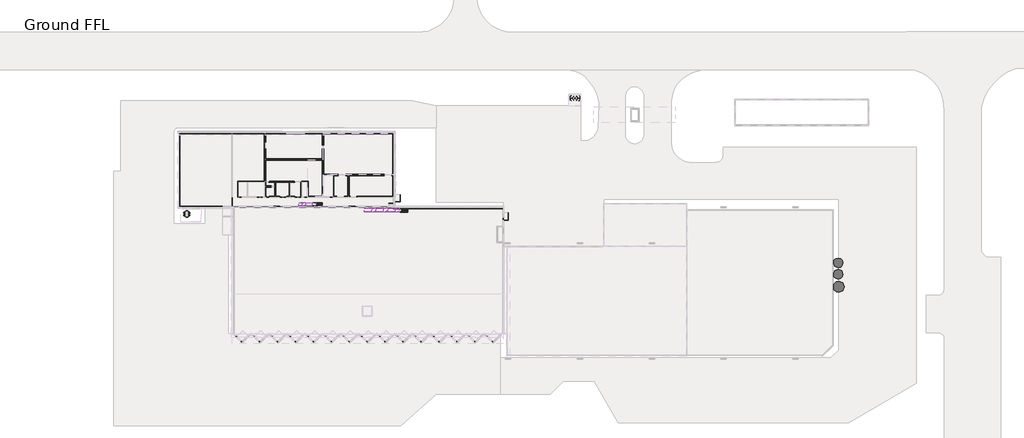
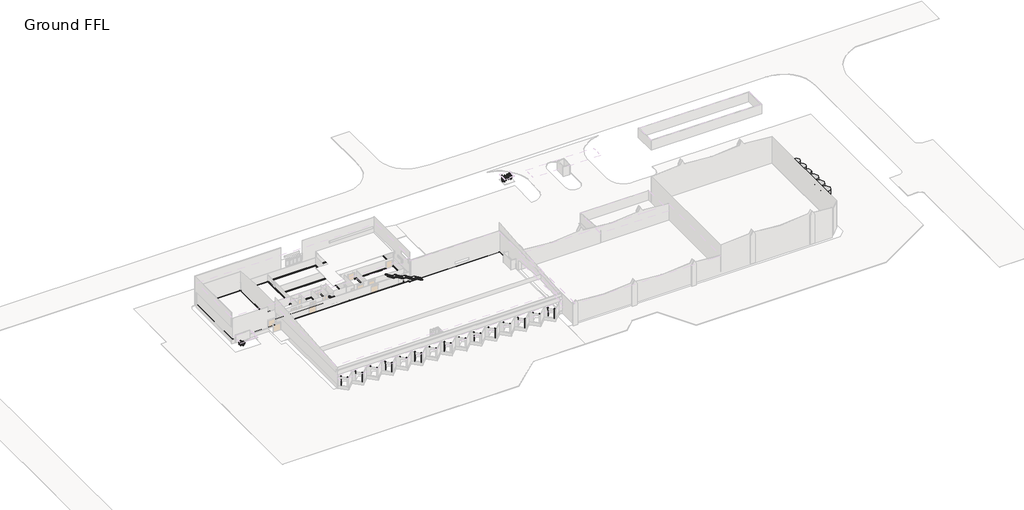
# One storey, part 7 of 7: 24 members, 16 proxies, 7 furniture elements, 7 stair flights, 5 slabs, 2 railings.
"""IFC4 building model written with IfcOpenShell, lengths in millimetres."""

from ifc_helpers import new_model, si_unit, frame, origin, place, context, project, spatial, polyline, outline, extrude, faceted_brep, transform, mapped, element, save
from components import generic_models_54642b07, generic_models_47eebe91, generic_models_15_generic_models_7_14492d66, generic_models_17_generic_models_1_3472ba46, generic_models_32_generic_models_32_7081ad10, generic_models_34_generic_models_32_d1835341, generic_models_38_generic_models_32_1923ef68, generic_models_40_generic_models_32_09cfcb6a, generic_models_61_generic_models_32_4aa8cace, generic_models_62_generic_models_32_8d04a695, generic_models_63_generic_models_32_eed390c8, generic_models_64_generic_models_32_c3ba978d, generic_models_65_generic_models_32_f5ca0920, generic_models_66_generic_models_32_00b28616, generic_models_67_generic_models_32_a422b838, generic_models_7_generic_models_7_7c2eb50a, desk_900x1800_desk_900x1800_b530369f, m_chair_desk_desk_chair_ccc35c8f, m_chair_desk_desk_chair_1723cfae, non_monolithic_landing_66f48692, non_monolithic_landing_e078cbeb, non_monolithic_landing_d349593f, non_monolithic_landing_6ace3499, non_monolithic_landing_e98cef7c, stair_flight_50mm_tread_13mm_riser_238aa83a, stair_flight_50mm_tread_13mm_riser_6543d562, stair_flight_50mm_tread_13mm_riser_bf7483d6, stair_flight_50mm_tread_13mm_riser_9f3b3ad1, stair_flight_50mm_tread_13mm_riser_e022b7d3, stair_flight_50mm_tread_13mm_riser_e6a1415e, stair_flight_50mm_tread_13mm_riser_ea8bbd4d

model = new_model("IFC4")

# Units and contexts
model_context = context("Model", 3, world=origin())
ifc_project = project(units=[si_unit("LENGTHUNIT", "METRE", prefix="MILLI")], contexts=[model_context])

# Site, building, storey
site = spatial("IfcSite", under=ifc_project)
building = spatial("IfcBuilding", under=site)
storey = spatial("IfcBuildingStorey", under=building, Name="Ground FFL", Elevation=44170.0)

# Proxies
placement = place(None, origin())
generic_models_shape = generic_models_54642b07(model_context)
element("IfcBuildingElementProxy", 1, Name="turnstile : turnstile", ObjectType="turnstile : turnstile", at=placement, inside=storey, context=model_context, shape_type="MappedRepresentation", body=[
    mapped(generic_models_shape, transform((-19833.8846753, 48120.4373725, 44170.0), x_axis=(1.0, 0.0, 0.0), y_axis=(0.0, 1.0, 0.0), z_axis=(0.0, 0.0, 1.0))),
])
generic_models_2_shape = generic_models_47eebe91(model_context)
element("IfcBuildingElementProxy", 2, Name="turnstile : turnstile", ObjectType="turnstile : turnstile", at=placement, inside=storey, context=model_context, shape_type="MappedRepresentation", body=[
    mapped(generic_models_2_shape, transform((-21709.5284214, 48120.4373725, 44170.0), x_axis=(-1.0, 0.0, 0.0), y_axis=(0.0, -1.0, 0.0), z_axis=(0.0, 0.0, 1.0))),
])
generic_models_15_generic_models_7_shape = generic_models_15_generic_models_7_14492d66(model_context)
element("IfcBuildingElementProxy", 3, Name="Generic Models 15 : Generic Models 7", ObjectType="Generic Models 15 : Generic Models 7", at=placement, inside=storey, context=model_context, shape_type="MappedRepresentation", body=[
    mapped(generic_models_15_generic_models_7_shape, transform((101.2251552, -101.2251552, 0.0), x_axis=(1.0, 0.0, 0.0), y_axis=(0.0, 1.0, 0.0), z_axis=(0.0, 0.0, 1.0))),
])
generic_models_17_generic_models_1_shape = generic_models_17_generic_models_1_3472ba46(model_context)
element("IfcBuildingElementProxy", 4, Name="Generic Models 17 : Generic Models 1", ObjectType="Generic Models 17 : Generic Models 1", at=placement, inside=storey, context=model_context, shape_type="MappedRepresentation", body=[
    mapped(generic_models_17_generic_models_1_shape, transform((0.0, 0.0, 0.0), x_axis=(1.0, 0.0, 0.0), y_axis=(0.0, 1.0, 0.0), z_axis=(0.0, 0.0, 1.0))),
])
generic_models_32_generic_models_32_shape = generic_models_32_generic_models_32_7081ad10(model_context)
element("IfcBuildingElementProxy", 5, Name="Generic Models 32 : Generic Models 32", ObjectType="Generic Models 32 : Generic Models 32", at=placement, inside=storey, context=model_context, shape_type="MappedRepresentation", body=[
    mapped(generic_models_32_generic_models_32_shape, transform((0.0, 0.0, 0.0), x_axis=(1.0, 0.0, 0.0), y_axis=(0.0, 1.0, 0.0), z_axis=(0.0, 0.0, 1.0))),
])
generic_models_34_generic_models_32_shape = generic_models_34_generic_models_32_d1835341(model_context)
element("IfcBuildingElementProxy", 6, Name="Generic Models 34 : Generic Models 32", ObjectType="Generic Models 34 : Generic Models 32", at=placement, inside=storey, context=model_context, shape_type="MappedRepresentation", body=[
    mapped(generic_models_34_generic_models_32_shape, transform((0.0, 0.0, 0.0), x_axis=(1.0, 0.0, 0.0), y_axis=(0.0, 1.0, 0.0), z_axis=(0.0, 0.0, 1.0))),
])
generic_models_38_generic_models_32_shape = generic_models_38_generic_models_32_1923ef68(model_context)
element("IfcBuildingElementProxy", 7, Name="Generic Models 38 : Generic Models 32", ObjectType="Generic Models 38 : Generic Models 32", at=placement, inside=storey, context=model_context, shape_type="MappedRepresentation", body=[
    mapped(generic_models_38_generic_models_32_shape, transform((0.0, 0.0, 0.0), x_axis=(1.0, 0.0, 0.0), y_axis=(0.0, 1.0, 0.0), z_axis=(0.0, 0.0, 1.0))),
])
generic_models_40_generic_models_32_shape = generic_models_40_generic_models_32_09cfcb6a(model_context)
element("IfcBuildingElementProxy", 8, Name="Generic Models 40 : Generic Models 32", ObjectType="Generic Models 40 : Generic Models 32", at=placement, inside=storey, context=model_context, shape_type="MappedRepresentation", body=[
    mapped(generic_models_40_generic_models_32_shape, transform((0.0, 0.0, 0.0), x_axis=(1.0, 0.0, 0.0), y_axis=(0.0, 1.0, 0.0), z_axis=(0.0, 0.0, 1.0))),
])
generic_models_61_generic_models_32_shape = generic_models_61_generic_models_32_4aa8cace(model_context)
element("IfcBuildingElementProxy", 9, Name="Generic Models 61 : Generic Models 32", ObjectType="Generic Models 61 : Generic Models 32", at=placement, inside=storey, context=model_context, shape_type="MappedRepresentation", body=[
    mapped(generic_models_61_generic_models_32_shape, transform((0.0, 0.0, 0.0), x_axis=(1.0, 0.0, 0.0), y_axis=(0.0, 1.0, 0.0), z_axis=(0.0, 0.0, 1.0))),
])
generic_models_62_generic_models_32_shape = generic_models_62_generic_models_32_8d04a695(model_context)
element("IfcBuildingElementProxy", 10, Name="Generic Models 62 : Generic Models 32", ObjectType="Generic Models 62 : Generic Models 32", at=placement, inside=storey, context=model_context, shape_type="MappedRepresentation", body=[
    mapped(generic_models_62_generic_models_32_shape, transform((0.0, 0.0, 0.0), x_axis=(1.0, 0.0, 0.0), y_axis=(0.0, 1.0, 0.0), z_axis=(0.0, 0.0, 1.0))),
])
generic_models_63_generic_models_32_shape = generic_models_63_generic_models_32_eed390c8(model_context)
element("IfcBuildingElementProxy", 11, Name="Generic Models 63 : Generic Models 32", ObjectType="Generic Models 63 : Generic Models 32", at=placement, inside=storey, context=model_context, shape_type="MappedRepresentation", body=[
    mapped(generic_models_63_generic_models_32_shape, transform((0.0, 0.0, 0.0), x_axis=(1.0, 0.0, 0.0), y_axis=(0.0, 1.0, 0.0), z_axis=(0.0, 0.0, 1.0))),
])
generic_models_64_generic_models_32_shape = generic_models_64_generic_models_32_c3ba978d(model_context)
element("IfcBuildingElementProxy", 12, Name="Generic Models 64 : Generic Models 32", ObjectType="Generic Models 64 : Generic Models 32", at=placement, inside=storey, context=model_context, shape_type="MappedRepresentation", body=[
    mapped(generic_models_64_generic_models_32_shape, transform((0.0, 0.0, 0.0), x_axis=(1.0, 0.0, 0.0), y_axis=(0.0, 1.0, 0.0), z_axis=(0.0, 0.0, 1.0))),
])
generic_models_65_generic_models_32_shape = generic_models_65_generic_models_32_f5ca0920(model_context)
element("IfcBuildingElementProxy", 13, Name="Generic Models 65 : Generic Models 32", ObjectType="Generic Models 65 : Generic Models 32", at=placement, inside=storey, context=model_context, shape_type="MappedRepresentation", body=[
    mapped(generic_models_65_generic_models_32_shape, transform((0.0, 0.0, 0.0), x_axis=(1.0, 0.0, 0.0), y_axis=(0.0, 1.0, 0.0), z_axis=(0.0, 0.0, 1.0))),
])
generic_models_66_generic_models_32_shape = generic_models_66_generic_models_32_00b28616(model_context)
element("IfcBuildingElementProxy", 14, Name="Generic Models 66 : Generic Models 32", ObjectType="Generic Models 66 : Generic Models 32", at=placement, inside=storey, context=model_context, shape_type="MappedRepresentation", body=[
    mapped(generic_models_66_generic_models_32_shape, transform((0.0, 0.0, 0.0), x_axis=(1.0, 0.0, 0.0), y_axis=(0.0, 1.0, 0.0), z_axis=(0.0, 0.0, 1.0))),
])
generic_models_67_generic_models_32_shape = generic_models_67_generic_models_32_a422b838(model_context)
element("IfcBuildingElementProxy", 15, Name="Generic Models 67 : Generic Models 32", ObjectType="Generic Models 67 : Generic Models 32", at=placement, inside=storey, context=model_context, shape_type="MappedRepresentation", body=[
    mapped(generic_models_67_generic_models_32_shape, transform((0.0, 0.0, 0.0), x_axis=(1.0, 0.0, 0.0), y_axis=(0.0, 1.0, 0.0), z_axis=(0.0, 0.0, 1.0))),
])
generic_models_7_generic_models_7_shape = generic_models_7_generic_models_7_7c2eb50a(model_context)
element("IfcBuildingElementProxy", 16, Name="Generic Models 7 : Generic Models 7", ObjectType="Generic Models 7 : Generic Models 7", at=placement, inside=storey, context=model_context, shape_type="MappedRepresentation", body=[
    mapped(generic_models_7_generic_models_7_shape, transform((-245.5190839, 245.5190839, 0.0), x_axis=(1.0, 0.0, 0.0), y_axis=(0.0, 1.0, 0.0), z_axis=(0.0, 0.0, 1.0))),
])

# Furniture
desk_900x1800_desk_900x1800_shape = desk_900x1800_desk_900x1800_b530369f(model_context)
element("IfcFurniture", 17, ObjectType="Desk 900x1800 : Desk 900x1800", at=placement, inside=storey, context=model_context, shape_type="MappedRepresentation", body=[
    mapped(desk_900x1800_desk_900x1800_shape, transform((-149927.7323436, 9461.0425754, 42810.0), x_axis=(0.0, 1.0, 0.0), y_axis=(-1.0, 0.0, 0.0), z_axis=(0.0, 0.0, 1.0))),
])
m_chair_desk_desk_chair_shape = m_chair_desk_desk_chair_ccc35c8f(model_context)
element("IfcFurniture", 18, ObjectType="M_Chair-Desk : Desk Chair", at=placement, inside=storey, context=model_context, shape_type="MappedRepresentation", body=[
    mapped(m_chair_desk_desk_chair_shape, transform((-151278.93237, 9061.0425754, 42810.0), x_axis=(0.0, -1.0000000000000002, 0.0), y_axis=(1.0000000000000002, 0.0, 0.0), z_axis=(0.0, 0.0, 1.0))),
])
element("IfcFurniture", 19, ObjectType="M_Chair-Desk : Desk Chair", at=placement, inside=storey, context=model_context, shape_type="MappedRepresentation", body=[
    mapped(m_chair_desk_desk_chair_shape, transform((-151278.93237, 9841.0425754, 42810.0), x_axis=(0.0, -1.0000000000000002, 0.0), y_axis=(1.0000000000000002, 0.0, 0.0), z_axis=(0.0, 0.0, 1.0))),
])
element("IfcFurniture", 20, ObjectType="M_Chair-Desk : Desk Chair", at=placement, inside=storey, context=model_context, shape_type="MappedRepresentation", body=[
    mapped(m_chair_desk_desk_chair_shape, transform((-150371.0114687, 8461.0425754, 42810.0), x_axis=(1.0, 0.0, 0.0), y_axis=(0.0, 1.0, 0.0), z_axis=(0.0, 0.0, 1.0))),
])
element("IfcFurniture", 21, ObjectType="M_Chair-Desk : Desk Chair", at=placement, inside=storey, context=model_context, shape_type="MappedRepresentation", body=[
    mapped(m_chair_desk_desk_chair_shape, transform((-150371.0114687, 10485.787017, 42810.0), x_axis=(-1.0, 0.0, 0.0), y_axis=(0.0, -1.0, 0.0), z_axis=(0.0, 0.0, 1.0))),
])
m_chair_desk_desk_chair_2_shape = m_chair_desk_desk_chair_1723cfae(model_context)
element("IfcFurniture", 22, ObjectType="M_Chair-Desk : Desk Chair", at=placement, inside=storey, context=model_context, shape_type="MappedRepresentation", body=[
    mapped(m_chair_desk_desk_chair_2_shape, transform((-149476.5323172, 9061.0425754, 42810.0), x_axis=(0.0, -1.0000000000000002, 0.0), y_axis=(1.0000000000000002, 0.0, 0.0), z_axis=(0.0, 0.0, 1.0))),
])
element("IfcFurniture", 23, ObjectType="M_Chair-Desk : Desk Chair", at=placement, inside=storey, context=model_context, shape_type="MappedRepresentation", body=[
    mapped(m_chair_desk_desk_chair_2_shape, transform((-149476.5323172, 9841.0425754, 42810.0), x_axis=(0.0, -1.0000000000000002, 0.0), y_axis=(1.0000000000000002, 0.0, 0.0), z_axis=(0.0, 0.0, 1.0))),
])

# Members
element("IfcMember", 24, ObjectType="Stringer - 50mm Width", at=placement, inside=storey, context=model_context, shape_type="SweptSolid", body=[
    extrude(outline(polyline([(49004.6415784, -88401.8011641), (49404.6415784, -88291.4340732), (51093.5957706, -91119.0398328), (50627.6725208, -91119.0398328), (49004.6415784, -88401.8011641)])), frame((0.0, 10089.2777512, 0.0), z_axis=(0.0, 1.0, 0.0), x_axis=(0.0, 0.0, 1.0)), (0.0, 0.0, 1.0), 50.0),
])
element("IfcMember", 25, ObjectType="Stringer - 50mm Width", at=placement, inside=storey, context=model_context, shape_type="SweptSolid", body=[
    extrude(outline(polyline([(49004.6415784, -88401.8011641), (49404.6415784, -88291.4340732), (51093.5957706, -91119.0398328), (50627.6725208, -91119.0398328), (49004.6415784, -88401.8011641)])), frame((0.0, 11339.2777512, 0.0), z_axis=(0.0, 1.0, 0.0), x_axis=(0.0, 0.0, 1.0)), (0.0, 0.0, 1.0), 50.0),
])
element("IfcMember", 26, ObjectType="Stringer - 50mm Width", at=placement, inside=storey, context=model_context, shape_type="SweptSolid", body=[
    extrude(outline(polyline([(47332.1765531, -84601.8011641), (47732.1765531, -84491.4340732), (49404.6415784, -87291.4340732), (49004.6415784, -87401.8011641), (47332.1765531, -84601.8011641)])), frame((0.0, 10089.2777512, 0.0), z_axis=(0.0, 1.0, 0.0), x_axis=(0.0, 0.0, 1.0)), (0.0, 0.0, 1.0), 50.0),
])
element("IfcMember", 27, ObjectType="Stringer - 50mm Width", at=placement, inside=storey, context=model_context, shape_type="SweptSolid", body=[
    extrude(outline(polyline([(47332.1765531, -84601.8011641), (47732.1765531, -84491.4340732), (49404.6415784, -87291.4340732), (49004.6415784, -87401.8011641), (47332.1765531, -84601.8011641)])), frame((0.0, 11339.2777512, 0.0), z_axis=(0.0, 1.0, 0.0), x_axis=(0.0, 0.0, 1.0)), (0.0, 0.0, 1.0), 50.0),
])
element("IfcMember", 28, ObjectType="Stringer - 50mm Width", at=placement, inside=storey, context=model_context, shape_type="SweptSolid", body=[
    extrude(outline(polyline([(49404.6415784, -88291.4340732), (49004.6415784, -88401.8011641), (49004.6415784, -87401.8011641), (49404.6415784, -87291.4340732), (49404.6415784, -88291.4340732)])), frame((0.0, 10089.2777512, 0.0), z_axis=(0.0, 1.0, 0.0), x_axis=(0.0, 0.0, 1.0)), (0.0, 0.0, 1.0), 50.0),
])
element("IfcMember", 29, ObjectType="Stringer - 50mm Width", at=placement, inside=storey, context=model_context, shape_type="SweptSolid", body=[
    extrude(outline(polyline([(49004.6415784, -87401.8011641), (49404.6415784, -87291.4340732), (49404.6415784, -88291.4340732), (49004.6415784, -88401.8011641), (49004.6415784, -87401.8011641)])), frame((0.0, 11339.2777512, 0.0), z_axis=(0.0, 1.0, 0.0), x_axis=(0.0, 0.0, 1.0)), (0.0, 0.0, 1.0), 50.0),
])
element("IfcMember", 30, ObjectType="Stringer - 50mm Width", at=placement, inside=storey, context=model_context, shape_type="SweptSolid", body=[
    extrude(outline(polyline([(45659.7115278, -80679.902129), (46059.7115278, -80569.5350381), (47732.1765531, -83369.5350381), (47332.1765531, -83479.902129), (45659.7115278, -80679.902129)])), frame((0.0, 10089.2777512, 0.0), z_axis=(0.0, 1.0, 0.0), x_axis=(0.0, 0.0, 1.0)), (0.0, 0.0, 1.0), 50.0),
])
element("IfcMember", 31, ObjectType="Stringer - 50mm Width", at=placement, inside=storey, context=model_context, shape_type="SweptSolid", body=[
    extrude(outline(polyline([(45659.7115278, -80679.902129), (46059.7115278, -80569.5350381), (47732.1765531, -83369.5350381), (47332.1765531, -83479.902129), (45659.7115278, -80679.902129)])), frame((0.0, 11339.2777512, 0.0), z_axis=(0.0, 1.0, 0.0), x_axis=(0.0, 0.0, 1.0)), (0.0, 0.0, 1.0), 50.0),
])
element("IfcMember", 32, ObjectType="Stringer - 50mm Width", at=placement, inside=storey, context=model_context, shape_type="SweptSolid", body=[
    extrude(outline(polyline([(47732.1765531, -84491.4340732), (47332.1765531, -84601.8011641), (47332.1765531, -83479.902129), (47732.1765531, -83369.5350381), (47732.1765531, -84491.4340732)])), frame((0.0, 10089.2777512, 0.0), z_axis=(0.0, 1.0, 0.0), x_axis=(0.0, 0.0, 1.0)), (0.0, 0.0, 1.0), 50.0),
])
element("IfcMember", 33, ObjectType="Stringer - 50mm Width", at=placement, inside=storey, context=model_context, shape_type="SweptSolid", body=[
    extrude(outline(polyline([(47332.1765531, -83479.902129), (47732.1765531, -83369.5350381), (47732.1765531, -84491.4340732), (47332.1765531, -84601.8011641), (47332.1765531, -83479.902129)])), frame((0.0, 11339.2777512, 0.0), z_axis=(0.0, 1.0, 0.0), x_axis=(0.0, 0.0, 1.0)), (0.0, 0.0, 1.0), 50.0),
])
element("IfcMember", 34, ObjectType="Stringer - 50mm Width", at=placement, inside=storey, context=model_context, shape_type="SweptSolid", body=[
    extrude(outline(polyline([(44170.0, -76697.1407976), (44403.7356694, -76697.1407976), (46059.7115278, -79469.5350381), (45659.7115278, -79579.902129), (44170.0, -77085.8635603), (44170.0, -76697.1407976)])), frame((0.0, 10089.2777512, 0.0), z_axis=(0.0, 1.0, 0.0), x_axis=(0.0, 0.0, 1.0)), (0.0, 0.0, 1.0), 50.0),
])
element("IfcMember", 35, ObjectType="Stringer - 50mm Width", at=placement, inside=storey, context=model_context, shape_type="SweptSolid", body=[
    extrude(outline(polyline([(44170.0, -76697.1407976), (44403.7356694, -76697.1407976), (46059.7115278, -79469.5350381), (45659.7115278, -79579.902129), (44170.0, -77085.8635603), (44170.0, -76697.1407976)])), frame((0.0, 11339.2777512, 0.0), z_axis=(0.0, 1.0, 0.0), x_axis=(0.0, 0.0, 1.0)), (0.0, 0.0, 1.0), 50.0),
])
element("IfcMember", 36, ObjectType="Stringer - 50mm Width", at=placement, inside=storey, context=model_context, shape_type="SweptSolid", body=[
    extrude(outline(polyline([(46059.7115278, -80569.5350381), (45659.7115278, -80679.902129), (45659.7115278, -79579.902129), (46059.7115278, -79469.5350381), (46059.7115278, -80569.5350381)])), frame((0.0, 10089.2777512, 0.0), z_axis=(0.0, 1.0, 0.0), x_axis=(0.0, 0.0, 1.0)), (0.0, 0.0, 1.0), 50.0),
])
element("IfcMember", 37, ObjectType="Stringer - 50mm Width", at=placement, inside=storey, context=model_context, shape_type="SweptSolid", body=[
    extrude(outline(polyline([(45659.7115278, -79579.902129), (46059.7115278, -79469.5350381), (46059.7115278, -80569.5350381), (45659.7115278, -80679.902129), (45659.7115278, -79579.902129)])), frame((0.0, 11339.2777512, 0.0), z_axis=(0.0, 1.0, 0.0), x_axis=(0.0, 0.0, 1.0)), (0.0, 0.0, 1.0), 50.0),
])
element("IfcMember", 38, ObjectType="Stringer - 50mm Width", at=placement, inside=storey, context=model_context, shape_type="SweptSolid", body=[
    extrude(outline(polyline([(44170.0, -105168.9945013), (44406.0780405, -105168.9945013), (45720.0, -107297.5480757), (45320.0, -107411.0623566), (44170.0, -105548.0623566), (44170.0, -105168.9945013)])), frame((0.0, 13172.4703498, 0.0), z_axis=(0.0, 1.0, 0.0), x_axis=(0.0, 0.0, 1.0)), (0.0, 0.0, 1.0), 50.0),
])
element("IfcMember", 39, ObjectType="Stringer - 50mm Width", at=placement, inside=storey, context=model_context, shape_type="SweptSolid", body=[
    extrude(outline(polyline([(44170.0, -105168.9945013), (44406.0780405, -105168.9945013), (45720.0, -107297.5480757), (45320.0, -107411.0623566), (44170.0, -105548.0623566), (44170.0, -105168.9945013)])), frame((0.0, 12122.4703498, 0.0), z_axis=(0.0, 1.0, 0.0), x_axis=(0.0, 0.0, 1.0)), (0.0, 0.0, 1.0), 50.0),
])
element("IfcMember", 40, ObjectType="Stringer - 50mm Width", at=placement, inside=storey, context=model_context, shape_type="SweptSolid", body=[
    extrude(outline(polyline([(45320.0, -108341.0078665), (45720.0, -108227.4935856), (47220.0, -110657.4935856), (46820.0, -110771.0078665), (45320.0, -108341.0078665)])), frame((0.0, 13172.4703498, 0.0), z_axis=(0.0, 1.0, 0.0), x_axis=(0.0, 0.0, 1.0)), (0.0, 0.0, 1.0), 50.0),
])
element("IfcMember", 41, ObjectType="Stringer - 50mm Width", at=placement, inside=storey, context=model_context, shape_type="SweptSolid", body=[
    extrude(outline(polyline([(45320.0, -108341.0078665), (45720.0, -108227.4935856), (47220.0, -110657.4935856), (46820.0, -110771.0078665), (45320.0, -108341.0078665)])), frame((0.0, 12122.4703498, 0.0), z_axis=(0.0, 1.0, 0.0), x_axis=(0.0, 0.0, 1.0)), (0.0, 0.0, 1.0), 50.0),
])
element("IfcMember", 42, ObjectType="Stringer - 50mm Width", at=placement, inside=storey, context=model_context, shape_type="SweptSolid", body=[
    extrude(outline(polyline([(45320.0, -107411.0623566), (45720.0, -107297.5480757), (45720.0, -108227.4935856), (45320.0, -108341.0078665), (45320.0, -107411.0623566)])), frame((0.0, 13172.4703498, 0.0), z_axis=(0.0, 1.0, 0.0), x_axis=(0.0, 0.0, 1.0)), (0.0, 0.0, 1.0), 50.0),
])
element("IfcMember", 43, ObjectType="Stringer - 50mm Width", at=placement, inside=storey, context=model_context, shape_type="SweptSolid", body=[
    extrude(outline(polyline([(45720.0, -108227.4935856), (45320.0, -108341.0078665), (45320.0, -107411.0623566), (45720.0, -107297.5480757), (45720.0, -108227.4935856)])), frame((0.0, 12122.4703498, 0.0), z_axis=(0.0, 1.0, 0.0), x_axis=(0.0, 0.0, 1.0)), (0.0, 0.0, 1.0), 50.0),
])
element("IfcMember", 44, ObjectType="Stringer - 50mm Width", at=placement, inside=storey, context=model_context, shape_type="SweptSolid", body=[
    extrude(outline(polyline([(46820.0, -111701.0078665), (47220.0, -111587.4935856), (48072.7447071, -112968.9400112), (47602.6741634, -112968.9400112), (46820.0, -111701.0078665)])), frame((0.0, 13172.4703498, 0.0), z_axis=(0.0, 1.0, 0.0), x_axis=(0.0, 0.0, 1.0)), (0.0, 0.0, 1.0), 50.0),
])
element("IfcMember", 45, ObjectType="Stringer - 50mm Width", at=placement, inside=storey, context=model_context, shape_type="SweptSolid", body=[
    extrude(outline(polyline([(46820.0, -111701.0078665), (47220.0, -111587.4935856), (48072.7447071, -112968.9400112), (47602.6741634, -112968.9400112), (46820.0, -111701.0078665)])), frame((0.0, 12122.4703498, 0.0), z_axis=(0.0, 1.0, 0.0), x_axis=(0.0, 0.0, 1.0)), (0.0, 0.0, 1.0), 50.0),
])
element("IfcMember", 46, ObjectType="Stringer - 50mm Width", at=placement, inside=storey, context=model_context, shape_type="SweptSolid", body=[
    extrude(outline(polyline([(46820.0, -110771.0078665), (47220.0, -110657.4935856), (47220.0, -111587.4935856), (46820.0, -111701.0078665), (46820.0, -110771.0078665)])), frame((0.0, 13172.4703498, 0.0), z_axis=(0.0, 1.0, 0.0), x_axis=(0.0, 0.0, 1.0)), (0.0, 0.0, 1.0), 50.0),
])
element("IfcMember", 47, ObjectType="Stringer - 50mm Width", at=placement, inside=storey, context=model_context, shape_type="SweptSolid", body=[
    extrude(outline(polyline([(47220.0, -111587.4935856), (46820.0, -111701.0078665), (46820.0, -110771.0078665), (47220.0, -110657.4935856), (47220.0, -111587.4935856)])), frame((0.0, 12122.4703498, 0.0), z_axis=(0.0, 1.0, 0.0), x_axis=(0.0, 0.0, 1.0)), (0.0, 0.0, 1.0), 50.0),
])

# Railings
element("IfcRailing", 48, ObjectType="1100mm", at=placement, inside=storey, context=model_context, shape_type="SolidModel", body=[
    faceted_brep([(-44599.0423298, 7357.0857185, 45270.0), (-44599.0423298, 7357.0857185, 45220.0), (-44599.0423298, 7307.0857185, 45220.0), (-44599.0423298, 7307.0857185, 45270.0), (-43064.0423298, 7357.0857185, 45270.0), (-43064.0423298, 7357.0857185, 45220.0), (-43014.0423298, 7307.0857185, 45220.0), (-43014.0423298, 7307.0857185, 45270.0), (-43064.0423298, 9832.0857185, 45270.0), (-43014.0423298, 9832.0857185, 45270.0), (-43014.0423298, 9832.0857185, 45220.0), (-43064.0423298, 9832.0857185, 45220.0)], [[[0, 1, 2, 3]], [[1, 0, 4, 5]], [[2, 1, 5, 6]], [[3, 2, 6, 7]], [[0, 3, 7, 4]], [[8, 9, 10, 11]], [[5, 4, 8, 11]], [[6, 5, 11, 10]], [[7, 6, 10, 9]], [[4, 7, 9, 8]]]),
    extrude(outline(polyline([(-43026.5423298, 9794.5857185), (-43051.5423298, 9794.5857185), (-43051.5423298, 9819.5857185), (-43026.5423298, 9819.5857185), (-43026.5423298, 9794.5857185)])), frame((0.0, 0.0, 44170.0), z_axis=(0.0, 0.0, 1.0), x_axis=(1.0, 0.0, 0.0)), (0.0, 0.0, 1.0), 1050.0),
    extrude(outline(polyline([(-43026.5423298, 9519.5857185), (-43051.5423298, 9519.5857185), (-43051.5423298, 9544.5857185), (-43026.5423298, 9544.5857185), (-43026.5423298, 9519.5857185)])), frame((0.0, 0.0, 44170.0), z_axis=(0.0, 0.0, 1.0), x_axis=(1.0, 0.0, 0.0)), (0.0, 0.0, 1.0), 1050.0),
    extrude(outline(polyline([(-43026.5423298, 9244.5857185), (-43051.5423298, 9244.5857185), (-43051.5423298, 9269.5857185), (-43026.5423298, 9269.5857185), (-43026.5423298, 9244.5857185)])), frame((0.0, 0.0, 44170.0), z_axis=(0.0, 0.0, 1.0), x_axis=(1.0, 0.0, 0.0)), (0.0, 0.0, 1.0), 1050.0),
    extrude(outline(polyline([(-43026.5423298, 8969.5857185), (-43051.5423298, 8969.5857185), (-43051.5423298, 8994.5857185), (-43026.5423298, 8994.5857185), (-43026.5423298, 8969.5857185)])), frame((0.0, 0.0, 44170.0), z_axis=(0.0, 0.0, 1.0), x_axis=(1.0, 0.0, 0.0)), (0.0, 0.0, 1.0), 1050.0),
    extrude(outline(polyline([(-43026.5423298, 8694.5857185), (-43051.5423298, 8694.5857185), (-43051.5423298, 8719.5857185), (-43026.5423298, 8719.5857185), (-43026.5423298, 8694.5857185)])), frame((0.0, 0.0, 44170.0), z_axis=(0.0, 0.0, 1.0), x_axis=(1.0, 0.0, 0.0)), (0.0, 0.0, 1.0), 1050.0),
    extrude(outline(polyline([(-43026.5423298, 8419.5857185), (-43051.5423298, 8419.5857185), (-43051.5423298, 8444.5857185), (-43026.5423298, 8444.5857185), (-43026.5423298, 8419.5857185)])), frame((0.0, 0.0, 44170.0), z_axis=(0.0, 0.0, 1.0), x_axis=(1.0, 0.0, 0.0)), (0.0, 0.0, 1.0), 1050.0),
    extrude(outline(polyline([(-43026.5423298, 8144.5857185), (-43051.5423298, 8144.5857185), (-43051.5423298, 8169.5857185), (-43026.5423298, 8169.5857185), (-43026.5423298, 8144.5857185)])), frame((0.0, 0.0, 44170.0), z_axis=(0.0, 0.0, 1.0), x_axis=(1.0, 0.0, 0.0)), (0.0, 0.0, 1.0), 1050.0),
    extrude(outline(polyline([(-43026.5423298, 7869.5857185), (-43051.5423298, 7869.5857185), (-43051.5423298, 7894.5857185), (-43026.5423298, 7894.5857185), (-43026.5423298, 7869.5857185)])), frame((0.0, 0.0, 44170.0), z_axis=(0.0, 0.0, 1.0), x_axis=(1.0, 0.0, 0.0)), (0.0, 0.0, 1.0), 1050.0),
    extrude(outline(polyline([(-43026.5423298, 7594.5857185), (-43051.5423298, 7594.5857185), (-43051.5423298, 7619.5857185), (-43026.5423298, 7619.5857185), (-43026.5423298, 7594.5857185)])), frame((0.0, 0.0, 44170.0), z_axis=(0.0, 0.0, 1.0), x_axis=(1.0, 0.0, 0.0)), (0.0, 0.0, 1.0), 1050.0),
    extrude(outline(polyline([(-43236.5423298, 7319.5857185), (-43236.5423298, 7344.5857185), (-43211.5423298, 7344.5857185), (-43211.5423298, 7319.5857185), (-43236.5423298, 7319.5857185)])), frame((0.0, 0.0, 44170.0), z_axis=(0.0, 0.0, 1.0), x_axis=(1.0, 0.0, 0.0)), (0.0, 0.0, 1.0), 1050.0),
    extrude(outline(polyline([(-43511.5423298, 7319.5857185), (-43511.5423298, 7344.5857185), (-43486.5423298, 7344.5857185), (-43486.5423298, 7319.5857185), (-43511.5423298, 7319.5857185)])), frame((0.0, 0.0, 44170.0), z_axis=(0.0, 0.0, 1.0), x_axis=(1.0, 0.0, 0.0)), (0.0, 0.0, 1.0), 1050.0),
    extrude(outline(polyline([(-43786.5423298, 7319.5857185), (-43786.5423298, 7344.5857185), (-43761.5423298, 7344.5857185), (-43761.5423298, 7319.5857185), (-43786.5423298, 7319.5857185)])), frame((0.0, 0.0, 44170.0), z_axis=(0.0, 0.0, 1.0), x_axis=(1.0, 0.0, 0.0)), (0.0, 0.0, 1.0), 1050.0),
    extrude(outline(polyline([(-44061.5423298, 7319.5857185), (-44061.5423298, 7344.5857185), (-44036.5423298, 7344.5857185), (-44036.5423298, 7319.5857185), (-44061.5423298, 7319.5857185)])), frame((0.0, 0.0, 44170.0), z_axis=(0.0, 0.0, 1.0), x_axis=(1.0, 0.0, 0.0)), (0.0, 0.0, 1.0), 1050.0),
    extrude(outline(polyline([(-44336.5423298, 7319.5857185), (-44336.5423298, 7344.5857185), (-44311.5423298, 7344.5857185), (-44311.5423298, 7319.5857185), (-44336.5423298, 7319.5857185)])), frame((0.0, 0.0, 44170.0), z_axis=(0.0, 0.0, 1.0), x_axis=(1.0, 0.0, 0.0)), (0.0, 0.0, 1.0), 1050.0),
    extrude(outline(polyline([(-43051.5423298, 7319.5857185), (-43051.5423298, 7344.5857185), (-43026.5423298, 7344.5857185), (-43026.5423298, 7319.5857185), (-43051.5423298, 7319.5857185)])), frame((0.0, 0.0, 44170.0), z_axis=(0.0, 0.0, 1.0), x_axis=(1.0, 0.0, 0.0)), (0.0, 0.0, 1.0), 1050.0),
    extrude(outline(polyline([(-43026.5423298, 9807.0857185), (-43051.5423298, 9807.0857185), (-43051.5423298, 9832.0857185), (-43026.5423298, 9832.0857185), (-43026.5423298, 9807.0857185)])), frame((0.0, 0.0, 44170.0), z_axis=(0.0, 0.0, 1.0), x_axis=(1.0, 0.0, 0.0)), (0.0, 0.0, 1.0), 1050.0),
    extrude(outline(polyline([(-44599.0423298, 7319.5857185), (-44599.0423298, 7344.5857185), (-44574.0423298, 7344.5857185), (-44574.0423298, 7319.5857185), (-44599.0423298, 7319.5857185)])), frame((0.0, 0.0, 44170.0), z_axis=(0.0, 0.0, 1.0), x_axis=(1.0, 0.0, 0.0)), (0.0, 0.0, 1.0), 1050.0),
])
element("IfcRailing", 49, ObjectType="1100mm", at=placement, inside=storey, context=model_context, shape_type="SolidModel", body=[
    faceted_brep([(-79202.9372768, 15857.4703267, 45270.0), (-79152.9372768, 15857.4703267, 45270.0), (-79152.9372768, 15857.4703267, 45220.0), (-79202.9372768, 15857.4703267, 45220.0), (-79202.9372768, 13632.4703267, 45220.0), (-79202.9372768, 13632.4703267, 45270.0), (-79152.9372768, 13582.4703267, 45220.0), (-79152.9372768, 13582.4703267, 45270.0), (-80762.5917799, 13632.4703267, 45270.0), (-80762.5917799, 13632.4703267, 45220.0), (-80762.5917799, 13582.4703267, 45220.0), (-80762.5917799, 13582.4703267, 45270.0)], [[[0, 1, 2, 3]], [[4, 5, 0, 3]], [[6, 4, 3, 2]], [[7, 6, 2, 1]], [[5, 7, 1, 0]], [[8, 9, 10, 11]], [[9, 8, 5, 4]], [[10, 9, 4, 6]], [[11, 10, 6, 7]], [[8, 11, 7, 5]]]),
    extrude(outline(polyline([(-79165.4372768, 15794.9703267), (-79190.4372768, 15794.9703267), (-79190.4372768, 15819.9703267), (-79165.4372768, 15819.9703267), (-79165.4372768, 15794.9703267)])), frame((0.0, 0.0, 44170.0), z_axis=(0.0, 0.0, 1.0), x_axis=(1.0, 0.0, 0.0)), (0.0, 0.0, 1.0), 1050.0),
    extrude(outline(polyline([(-79165.4372768, 15519.9703267), (-79190.4372768, 15519.9703267), (-79190.4372768, 15544.9703267), (-79165.4372768, 15544.9703267), (-79165.4372768, 15519.9703267)])), frame((0.0, 0.0, 44170.0), z_axis=(0.0, 0.0, 1.0), x_axis=(1.0, 0.0, 0.0)), (0.0, 0.0, 1.0), 1050.0),
    extrude(outline(polyline([(-79165.4372768, 15244.9703267), (-79190.4372768, 15244.9703267), (-79190.4372768, 15269.9703267), (-79165.4372768, 15269.9703267), (-79165.4372768, 15244.9703267)])), frame((0.0, 0.0, 44170.0), z_axis=(0.0, 0.0, 1.0), x_axis=(1.0, 0.0, 0.0)), (0.0, 0.0, 1.0), 1050.0),
    extrude(outline(polyline([(-79165.4372768, 14969.9703267), (-79190.4372768, 14969.9703267), (-79190.4372768, 14994.9703267), (-79165.4372768, 14994.9703267), (-79165.4372768, 14969.9703267)])), frame((0.0, 0.0, 44170.0), z_axis=(0.0, 0.0, 1.0), x_axis=(1.0, 0.0, 0.0)), (0.0, 0.0, 1.0), 1050.0),
    extrude(outline(polyline([(-79165.4372768, 14694.9703267), (-79190.4372768, 14694.9703267), (-79190.4372768, 14719.9703267), (-79165.4372768, 14719.9703267), (-79165.4372768, 14694.9703267)])), frame((0.0, 0.0, 44170.0), z_axis=(0.0, 0.0, 1.0), x_axis=(1.0, 0.0, 0.0)), (0.0, 0.0, 1.0), 1050.0),
    extrude(outline(polyline([(-79165.4372768, 14419.9703267), (-79190.4372768, 14419.9703267), (-79190.4372768, 14444.9703267), (-79165.4372768, 14444.9703267), (-79165.4372768, 14419.9703267)])), frame((0.0, 0.0, 44170.0), z_axis=(0.0, 0.0, 1.0), x_axis=(1.0, 0.0, 0.0)), (0.0, 0.0, 1.0), 1050.0),
    extrude(outline(polyline([(-79165.4372768, 14144.9703267), (-79190.4372768, 14144.9703267), (-79190.4372768, 14169.9703267), (-79165.4372768, 14169.9703267), (-79165.4372768, 14144.9703267)])), frame((0.0, 0.0, 44170.0), z_axis=(0.0, 0.0, 1.0), x_axis=(1.0, 0.0, 0.0)), (0.0, 0.0, 1.0), 1050.0),
    extrude(outline(polyline([(-79165.4372768, 13869.9703267), (-79190.4372768, 13869.9703267), (-79190.4372768, 13894.9703267), (-79165.4372768, 13894.9703267), (-79165.4372768, 13869.9703267)])), frame((0.0, 0.0, 44170.0), z_axis=(0.0, 0.0, 1.0), x_axis=(1.0, 0.0, 0.0)), (0.0, 0.0, 1.0), 1050.0),
    extrude(outline(polyline([(-79400.0917799, 13594.9703267), (-79400.0917799, 13619.9703267), (-79375.0917799, 13619.9703267), (-79375.0917799, 13594.9703267), (-79400.0917799, 13594.9703267)])), frame((0.0, 0.0, 44170.0), z_axis=(0.0, 0.0, 1.0), x_axis=(1.0, 0.0, 0.0)), (0.0, 0.0, 1.0), 1050.0),
    extrude(outline(polyline([(-79675.0917799, 13594.9703267), (-79675.0917799, 13619.9703267), (-79650.0917799, 13619.9703267), (-79650.0917799, 13594.9703267), (-79675.0917799, 13594.9703267)])), frame((0.0, 0.0, 44170.0), z_axis=(0.0, 0.0, 1.0), x_axis=(1.0, 0.0, 0.0)), (0.0, 0.0, 1.0), 1050.0),
    extrude(outline(polyline([(-79950.0917799, 13594.9703267), (-79950.0917799, 13619.9703267), (-79925.0917799, 13619.9703267), (-79925.0917799, 13594.9703267), (-79950.0917799, 13594.9703267)])), frame((0.0, 0.0, 44170.0), z_axis=(0.0, 0.0, 1.0), x_axis=(1.0, 0.0, 0.0)), (0.0, 0.0, 1.0), 1050.0),
    extrude(outline(polyline([(-80225.0917799, 13594.9703267), (-80225.0917799, 13619.9703267), (-80200.0917799, 13619.9703267), (-80200.0917799, 13594.9703267), (-80225.0917799, 13594.9703267)])), frame((0.0, 0.0, 44170.0), z_axis=(0.0, 0.0, 1.0), x_axis=(1.0, 0.0, 0.0)), (0.0, 0.0, 1.0), 1050.0),
    extrude(outline(polyline([(-80500.0917799, 13594.9703267), (-80500.0917799, 13619.9703267), (-80475.0917799, 13619.9703267), (-80475.0917799, 13594.9703267), (-80500.0917799, 13594.9703267)])), frame((0.0, 0.0, 44170.0), z_axis=(0.0, 0.0, 1.0), x_axis=(1.0, 0.0, 0.0)), (0.0, 0.0, 1.0), 1050.0),
    extrude(outline(polyline([(-79190.4372768, 13594.9703267), (-79190.4372768, 13619.9703267), (-79165.4372768, 13619.9703267), (-79165.4372768, 13594.9703267), (-79190.4372768, 13594.9703267)])), frame((0.0, 0.0, 44170.0), z_axis=(0.0, 0.0, 1.0), x_axis=(1.0, 0.0, 0.0)), (0.0, 0.0, 1.0), 1050.0),
    extrude(outline(polyline([(-79165.4372768, 15832.4703267), (-79190.4372768, 15832.4703267), (-79190.4372768, 15857.4703267), (-79165.4372768, 15857.4703267), (-79165.4372768, 15832.4703267)])), frame((0.0, 0.0, 44170.0), z_axis=(0.0, 0.0, 1.0), x_axis=(1.0, 0.0, 0.0)), (0.0, 0.0, 1.0), 1050.0),
    extrude(outline(polyline([(-80762.5917799, 13594.9703267), (-80762.5917799, 13619.9703267), (-80737.5917799, 13619.9703267), (-80737.5917799, 13594.9703267), (-80762.5917799, 13594.9703267)])), frame((0.0, 0.0, 44170.0), z_axis=(0.0, 0.0, 1.0), x_axis=(1.0, 0.0, 0.0)), (0.0, 0.0, 1.0), 1050.0),
])

# Slabs
non_monolithic_landing_shape = non_monolithic_landing_66f48692(model_context)
element("IfcSlab", 50, ObjectType="Non-Monolithic Landing", at=placement, inside=storey, context=model_context, shape_type="MappedRepresentation", body=[
    mapped(non_monolithic_landing_shape, transform((0.0, 0.0, 0.0), x_axis=(1.0, 0.0, 0.0), y_axis=(0.0, 1.0, 0.0), z_axis=(0.0, 0.0, 1.0))),
])
non_monolithic_landing_2_shape = non_monolithic_landing_e078cbeb(model_context)
element("IfcSlab", 51, ObjectType="Non-Monolithic Landing", at=placement, inside=storey, context=model_context, shape_type="MappedRepresentation", body=[
    mapped(non_monolithic_landing_2_shape, transform((0.0, 0.0, 0.0), x_axis=(1.0, 0.0, 0.0), y_axis=(0.0, 1.0, 0.0), z_axis=(0.0, 0.0, 1.0))),
])
non_monolithic_landing_3_shape = non_monolithic_landing_d349593f(model_context)
element("IfcSlab", 52, ObjectType="Non-Monolithic Landing", at=placement, inside=storey, context=model_context, shape_type="MappedRepresentation", body=[
    mapped(non_monolithic_landing_3_shape, transform((0.0, 0.0, 0.0), x_axis=(1.0, 0.0, 0.0), y_axis=(0.0, 1.0, 0.0), z_axis=(0.0, 0.0, 1.0))),
])
non_monolithic_landing_4_shape = non_monolithic_landing_6ace3499(model_context)
element("IfcSlab", 53, ObjectType="Non-Monolithic Landing", at=placement, inside=storey, context=model_context, shape_type="MappedRepresentation", body=[
    mapped(non_monolithic_landing_4_shape, transform((0.0, 0.0, 0.0), x_axis=(1.0, 0.0, 0.0), y_axis=(0.0, 1.0, 0.0), z_axis=(0.0, 0.0, 1.0))),
])
non_monolithic_landing_5_shape = non_monolithic_landing_e98cef7c(model_context)
element("IfcSlab", 54, ObjectType="Non-Monolithic Landing", at=placement, inside=storey, context=model_context, shape_type="MappedRepresentation", body=[
    mapped(non_monolithic_landing_5_shape, transform((0.0, 0.0, 0.0), x_axis=(1.0, 0.0, 0.0), y_axis=(0.0, 1.0, 0.0), z_axis=(0.0, 0.0, 1.0))),
])

# Stair flights
stair_flight_50mm_tread_13mm_riser_shape = stair_flight_50mm_tread_13mm_riser_238aa83a(model_context)
element("IfcStairFlight", 55, ObjectType="50mm Tread 13mm Riser", at=placement, inside=storey, context=model_context, shape_type="MappedRepresentation", body=[
    mapped(stair_flight_50mm_tread_13mm_riser_shape, transform((0.0, 0.0, 0.0), x_axis=(1.0, 0.0, 0.0), y_axis=(0.0, 1.0, 0.0), z_axis=(0.0, 0.0, 1.0))),
])
stair_flight_50mm_tread_13mm_riser_2_shape = stair_flight_50mm_tread_13mm_riser_6543d562(model_context)
element("IfcStairFlight", 56, ObjectType="50mm Tread 13mm Riser", at=placement, inside=storey, context=model_context, shape_type="MappedRepresentation", body=[
    mapped(stair_flight_50mm_tread_13mm_riser_2_shape, transform((0.0, 0.0, 0.0), x_axis=(1.0, 0.0, 0.0), y_axis=(0.0, 1.0, 0.0), z_axis=(0.0, 0.0, 1.0))),
])
stair_flight_50mm_tread_13mm_riser_3_shape = stair_flight_50mm_tread_13mm_riser_bf7483d6(model_context)
element("IfcStairFlight", 57, ObjectType="50mm Tread 13mm Riser", at=placement, inside=storey, context=model_context, shape_type="MappedRepresentation", body=[
    mapped(stair_flight_50mm_tread_13mm_riser_3_shape, transform((0.0, 0.0, 0.0), x_axis=(1.0, 0.0, 0.0), y_axis=(0.0, 1.0, 0.0), z_axis=(0.0, 0.0, 1.0))),
])
stair_flight_50mm_tread_13mm_riser_4_shape = stair_flight_50mm_tread_13mm_riser_9f3b3ad1(model_context)
element("IfcStairFlight", 58, ObjectType="50mm Tread 13mm Riser", at=placement, inside=storey, context=model_context, shape_type="MappedRepresentation", body=[
    mapped(stair_flight_50mm_tread_13mm_riser_4_shape, transform((0.0, 0.0, 0.0), x_axis=(1.0, 0.0, 0.0), y_axis=(0.0, 1.0, 0.0), z_axis=(0.0, 0.0, 1.0))),
])
stair_flight_50mm_tread_13mm_riser_5_shape = stair_flight_50mm_tread_13mm_riser_e022b7d3(model_context)
element("IfcStairFlight", 59, ObjectType="50mm Tread 13mm Riser", at=placement, inside=storey, context=model_context, shape_type="MappedRepresentation", body=[
    mapped(stair_flight_50mm_tread_13mm_riser_5_shape, transform((0.0, 0.0, 0.0), x_axis=(1.0, 0.0, 0.0), y_axis=(0.0, 1.0, 0.0), z_axis=(0.0, 0.0, 1.0))),
])
stair_flight_50mm_tread_13mm_riser_6_shape = stair_flight_50mm_tread_13mm_riser_e6a1415e(model_context)
element("IfcStairFlight", 60, ObjectType="50mm Tread 13mm Riser", at=placement, inside=storey, context=model_context, shape_type="MappedRepresentation", body=[
    mapped(stair_flight_50mm_tread_13mm_riser_6_shape, transform((0.0, 0.0, 0.0), x_axis=(1.0, 0.0, 0.0), y_axis=(0.0, 1.0, 0.0), z_axis=(0.0, 0.0, 1.0))),
])
stair_flight_50mm_tread_13mm_riser_7_shape = stair_flight_50mm_tread_13mm_riser_ea8bbd4d(model_context)
element("IfcStairFlight", 61, ObjectType="50mm Tread 13mm Riser", at=placement, inside=storey, context=model_context, shape_type="MappedRepresentation", body=[
    mapped(stair_flight_50mm_tread_13mm_riser_7_shape, transform((0.0, 0.0, 0.0), x_axis=(1.0, 0.0, 0.0), y_axis=(0.0, 1.0, 0.0), z_axis=(0.0, 0.0, 1.0))),
])

save(model, "model.ifc")
